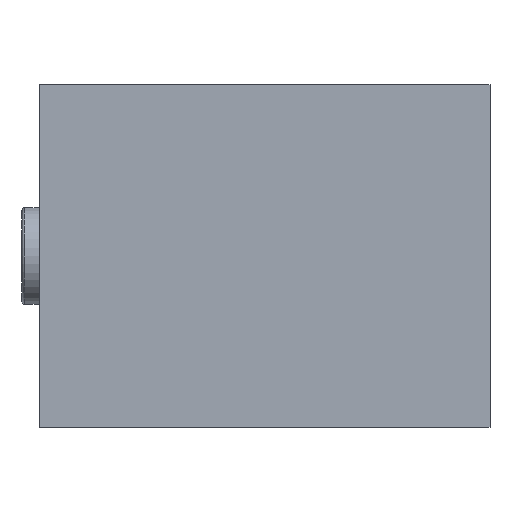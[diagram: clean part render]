
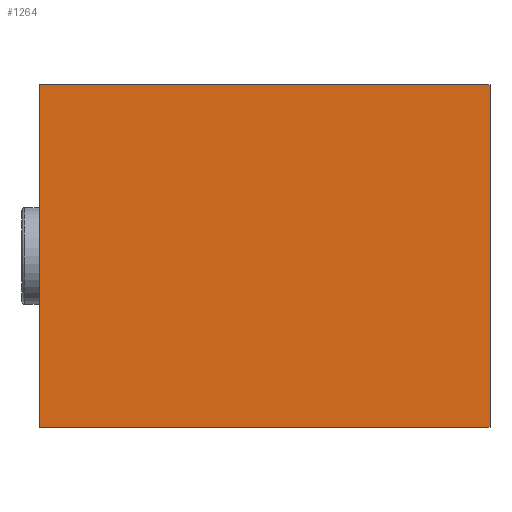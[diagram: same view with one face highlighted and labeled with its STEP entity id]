
A CAD part, front view. The second image highlights one B-rep face of the part: STEP entity #1264.
In plain terms, the highlighted planar face has unit normal (0, -1, 0).
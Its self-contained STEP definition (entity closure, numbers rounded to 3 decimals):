
#5 = VERTEX_POINT ( 'NONE', #1333 ) ;
#9 = PLANE ( 'NONE',  #1721 ) ;
#16 = DIRECTION ( 'NONE',  ( 0., 0., 1. ) ) ;
#150 = CARTESIAN_POINT ( 'NONE',  ( 62.5, 0., 47.5 ) ) ;
#169 = VECTOR ( 'NONE', #1897, 1000. ) ;
#204 = EDGE_LOOP ( 'NONE', ( #1789, #612, #2706, #1391 ) ) ;
#221 = VERTEX_POINT ( 'NONE', #357 ) ;
#280 = DIRECTION ( 'NONE',  ( 0., 0., -1. ) ) ;
#357 = CARTESIAN_POINT ( 'NONE',  ( -62.5, 0., -47.5 ) ) ;
#374 = EDGE_CURVE ( 'NONE', #221, #1568, #1468, .T. ) ;
#442 = EDGE_CURVE ( 'NONE', #1568, #3148, #2874, .T. ) ;
#612 = ORIENTED_EDGE ( 'NONE', *, *, #442, .F. ) ;
#991 = CARTESIAN_POINT ( 'NONE',  ( 0., 0., 0. ) ) ;
#1106 = EDGE_CURVE ( 'NONE', #5, #221, #1205, .T. ) ;
#1205 = LINE ( 'NONE', #1638, #1561 ) ;
#1264 = ADVANCED_FACE ( 'NONE', ( #2894 ), #9, .F. ) ;
#1333 = CARTESIAN_POINT ( 'NONE',  ( 62.5, 0., -47.5 ) ) ;
#1391 = ORIENTED_EDGE ( 'NONE', *, *, #1106, .F. ) ;
#1468 = LINE ( 'NONE', #2596, #169 ) ;
#1494 = EDGE_CURVE ( 'NONE', #3148, #5, #2663, .T. ) ;
#1495 = CARTESIAN_POINT ( 'NONE',  ( 62.5, 0., -47.5 ) ) ;
#1561 = VECTOR ( 'NONE', #2632, 1000. ) ;
#1568 = VERTEX_POINT ( 'NONE', #1695 ) ;
#1638 = CARTESIAN_POINT ( 'NONE',  ( -62.5, 0., -47.5 ) ) ;
#1695 = CARTESIAN_POINT ( 'NONE',  ( -62.5, 0., 47.5 ) ) ;
#1721 = AXIS2_PLACEMENT_3D ( 'NONE', #991, #2679, #16 ) ;
#1789 = ORIENTED_EDGE ( 'NONE', *, *, #1494, .F. ) ;
#1880 = DIRECTION ( 'NONE',  ( 1., 0., 0. ) ) ;
#1897 = DIRECTION ( 'NONE',  ( 0., 0., 1. ) ) ;
#2189 = VECTOR ( 'NONE', #1880, 1000. ) ;
#2596 = CARTESIAN_POINT ( 'NONE',  ( -62.5, 0., -47.5 ) ) ;
#2605 = CARTESIAN_POINT ( 'NONE',  ( -62.5, 0., 47.5 ) ) ;
#2632 = DIRECTION ( 'NONE',  ( -1., 0., 0. ) ) ;
#2663 = LINE ( 'NONE', #1495, #2852 ) ;
#2679 = DIRECTION ( 'NONE',  ( 0., 1., 0. ) ) ;
#2706 = ORIENTED_EDGE ( 'NONE', *, *, #374, .F. ) ;
#2852 = VECTOR ( 'NONE', #280, 1000. ) ;
#2874 = LINE ( 'NONE', #2605, #2189 ) ;
#2894 = FACE_OUTER_BOUND ( 'NONE', #204, .T. ) ;
#3148 = VERTEX_POINT ( 'NONE', #150 ) ;
